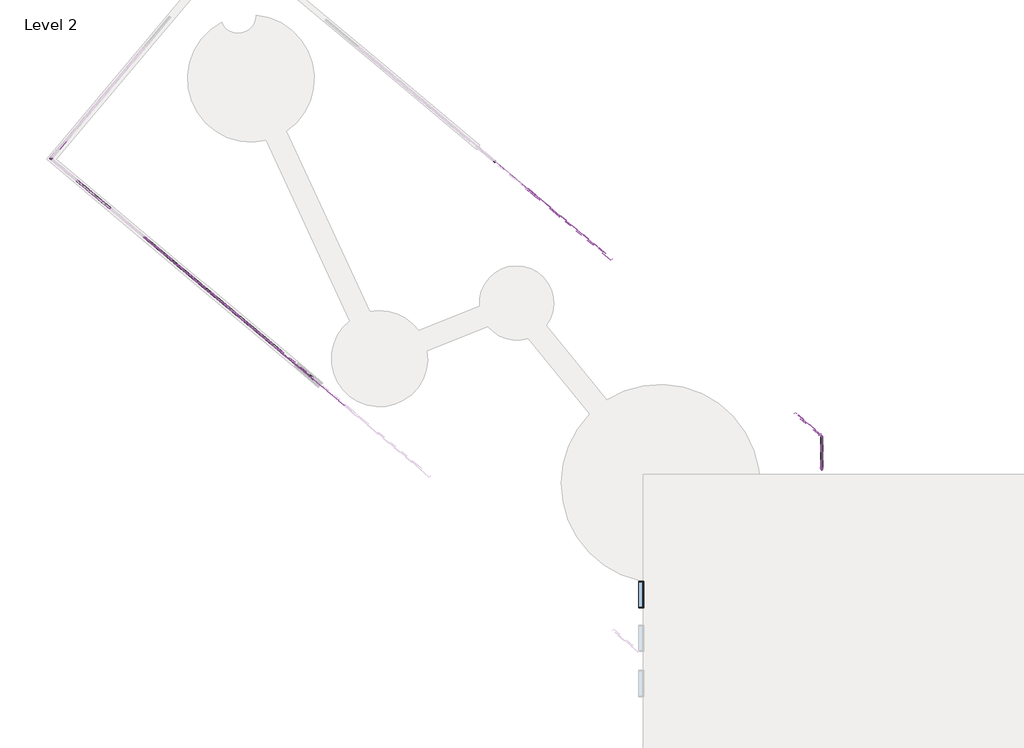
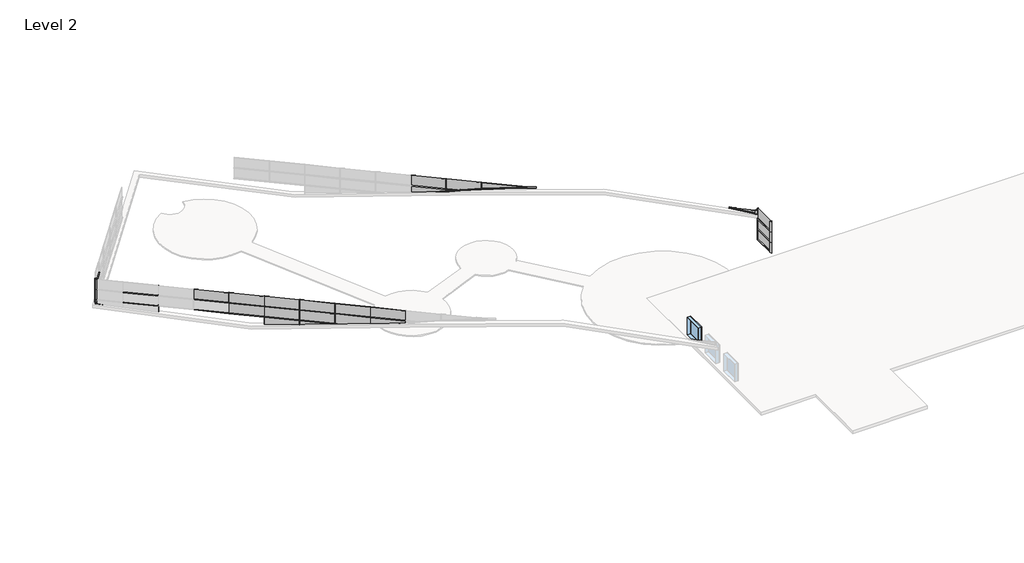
# One storey, part 2 of 4: 61 members, 24 plates, 1 window.
"""IFC4 building model written with IfcOpenShell, lengths in millimetres."""

from ifc_helpers import new_model, si_unit, origin, place, context, project, spatial, transform, mapped, element, save
from components import member_e6b937b8, member_1b704979, member_068a0dfa, member_232b107b, member_5cb85f76, member_ac0e112d, member_633fb476, member_a7599d5d, member_fc960fec, member_60456532, member_eaba9652, member_34764c31, member_99cfcb15, member_47efc922, member_e08b85bd, member_cf3f750f, member_a7c730c3, member_fe170bf2, member_786ddc1b, member_6f14002f, member_fb21f5a2, member_c036f4fd, member_a8023948, member_02a9b408, member_da5e5371, member_6eb202bc, member_954245ad, member_117cba67, member_db8f3720, member_387caf8a, member_c5bb3335, member_59f4f75c, system_panel_glazed_a2c5a472, system_panel_glazed_07eba4bf, system_panel_glazed_db298635, system_panel_glazed_139d58c7, system_panel_glazed_4946ea4e, system_panel_glazed_e6b97be5, system_panel_glazed_a8738b8d, system_panel_glazed_68af7b0f, system_panel_glazed_a85f667b, system_panel_glazed_acf1b168, system_panel_glazed_5c028d10, system_panel_glazed_bdf12241, system_panel_glazed_57983fdc, fixed_6_x_6_52427b03

model = new_model("IFC4")

# Units and contexts
model_context = context("Model", 3, world=origin())
ifc_project = project(units=[si_unit("LENGTHUNIT", "METRE", prefix="MILLI")], contexts=[model_context])

# Site, building, storey
site = spatial("IfcSite", under=ifc_project)
building = spatial("IfcBuilding", under=site)
storey = spatial("IfcBuildingStorey", under=building, Name="Level 2", Elevation=3048.0)

# Members
placement = place(None, origin())
member_shape = member_e6b937b8(model_context)
element("IfcMember", 1, ObjectType="Rectangular Mullion : 1.5\" x 2.5\" rectangular", at=placement, inside=storey, context=model_context, shape_type="MappedRepresentation", body=[
    mapped(member_shape, transform((-25926.9227367, 30344.5515415, 6133.5444177), x_axis=(0.76604444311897, -0.6427876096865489, 0.0), y_axis=(0.6427876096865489, 0.76604444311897, 0.0), z_axis=(0.0, 0.0, 1.0))),
])
element("IfcMember", 2, ObjectType="Rectangular Mullion : 1.5\" x 2.5\" rectangular", at=placement, inside=storey, context=model_context, shape_type="MappedRepresentation", body=[
    mapped(member_shape, transform((-43285.7186452, 19140.836603, 5066.7444177), x_axis=(-0.76604444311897, 0.6427876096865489, 0.0), y_axis=(-0.6427876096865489, -0.76604444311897, 0.0), z_axis=(0.0, 0.0, 1.0))),
])
element("IfcMember", 3, ObjectType="Rectangular Mullion : 1.5\" x 2.5\" rectangular", at=placement, inside=storey, context=model_context, shape_type="MappedRepresentation", body=[
    mapped(member_shape, transform((-40950.8151826, 17181.6199687, 6133.5444177), x_axis=(-0.76604444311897, 0.6427876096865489, 0.0), y_axis=(-0.6427876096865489, -0.76604444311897, 0.0), z_axis=(0.0, 0.0, 1.0))),
])
element("IfcMember", 4, ObjectType="Rectangular Mullion : 1.5\" x 2.5\" rectangular", at=placement, inside=storey, context=model_context, shape_type="MappedRepresentation", body=[
    mapped(member_shape, transform((-43285.7186452, 19140.836603, 6133.5444177), x_axis=(-0.76604444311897, 0.6427876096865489, 0.0), y_axis=(-0.6427876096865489, -0.76604444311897, 0.0), z_axis=(0.0, 0.0, 1.0))),
])
element("IfcMember", 5, ObjectType="Rectangular Mullion : 1.5\" x 2.5\" rectangular", at=placement, inside=storey, context=model_context, shape_type="MappedRepresentation", body=[
    mapped(member_shape, transform((-45620.6221079, 21100.0532373, 5066.7444177), x_axis=(-0.76604444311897, 0.6427876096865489, 0.0), y_axis=(-0.6427876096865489, -0.76604444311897, 0.0), z_axis=(0.0, 0.0, 1.0))),
])
element("IfcMember", 6, ObjectType="Rectangular Mullion : 1.5\" x 2.5\" rectangular", at=placement, inside=storey, context=model_context, shape_type="MappedRepresentation", body=[
    mapped(member_shape, transform((-47955.5255705, 23059.2698716, 5066.7444177), x_axis=(-0.76604444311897, 0.6427876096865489, 0.0), y_axis=(-0.6427876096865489, -0.76604444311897, 0.0), z_axis=(0.0, 0.0, 1.0))),
])
element("IfcMember", 7, ObjectType="Rectangular Mullion : 1.5\" x 2.5\" rectangular", at=placement, inside=storey, context=model_context, shape_type="MappedRepresentation", body=[
    mapped(member_shape, transform((-50290.4290331, 25018.486506, 5066.7444177), x_axis=(-0.76604444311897, 0.6427876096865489, 0.0), y_axis=(-0.6427876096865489, -0.76604444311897, 0.0), z_axis=(0.0, 0.0, 1.0))),
])
element("IfcMember", 8, ObjectType="Rectangular Mullion : 1.5\" x 2.5\" rectangular", at=placement, inside=storey, context=model_context, shape_type="MappedRepresentation", body=[
    mapped(member_shape, transform((-54960.2359584, 28936.9197746, 5066.7444177), x_axis=(-0.76604444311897, 0.6427876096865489, 0.0), y_axis=(-0.6427876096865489, -0.76604444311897, 0.0), z_axis=(0.0, 0.0, 1.0))),
])
element("IfcMember", 9, ObjectType="Rectangular Mullion : 1.5\" x 2.5\" rectangular", at=placement, inside=storey, context=model_context, shape_type="MappedRepresentation", body=[
    mapped(member_shape, transform((-45620.6221079, 21100.0532373, 6133.5444177), x_axis=(-0.76604444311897, 0.6427876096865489, 0.0), y_axis=(-0.6427876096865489, -0.76604444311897, 0.0), z_axis=(0.0, 0.0, 1.0))),
])
element("IfcMember", 10, ObjectType="Rectangular Mullion : 1.5\" x 2.5\" rectangular", at=placement, inside=storey, context=model_context, shape_type="MappedRepresentation", body=[
    mapped(member_shape, transform((-47955.5255705, 23059.2698716, 6133.5444177), x_axis=(-0.76604444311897, 0.6427876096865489, 0.0), y_axis=(-0.6427876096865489, -0.76604444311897, 0.0), z_axis=(0.0, 0.0, 1.0))),
])
element("IfcMember", 11, ObjectType="Rectangular Mullion : 1.5\" x 2.5\" rectangular", at=placement, inside=storey, context=model_context, shape_type="MappedRepresentation", body=[
    mapped(member_shape, transform((-50290.4290331, 25018.486506, 6133.5444177), x_axis=(-0.76604444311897, 0.6427876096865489, 0.0), y_axis=(-0.6427876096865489, -0.76604444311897, 0.0), z_axis=(0.0, 0.0, 1.0))),
])
element("IfcMember", 12, ObjectType="Rectangular Mullion : 1.5\" x 2.5\" rectangular", at=placement, inside=storey, context=model_context, shape_type="MappedRepresentation", body=[
    mapped(member_shape, transform((-54960.2359584, 28936.9197746, 6133.5444177), x_axis=(-0.76604444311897, 0.6427876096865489, 0.0), y_axis=(-0.6427876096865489, -0.76604444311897, 0.0), z_axis=(0.0, 0.0, 1.0))),
])
member_2_shape = member_1b704979(model_context)
element("IfcMember", 13, ObjectType="Rectangular Mullion : 1.5\" x 2.5\" rectangular", at=placement, inside=storey, context=model_context, shape_type="MappedRepresentation", body=[
    mapped(member_2_shape, transform((-5348.7113943, 13077.3819938, 3200.4), x_axis=(0.0, 1.0, 0.0), y_axis=(1.0, 0.0, 0.0), z_axis=(0.0, 0.0, -1.0))),
])
element("IfcMember", 14, ObjectType="Rectangular Mullion : 1.5\" x 2.5\" rectangular", at=placement, inside=storey, context=model_context, shape_type="MappedRepresentation", body=[
    mapped(member_2_shape, transform((-5348.7113943, 13077.3819938, 4267.2), x_axis=(0.0, 1.0, 0.0), y_axis=(1.0, 0.0, 0.0), z_axis=(0.0, 0.0, -1.0))),
])
element("IfcMember", 15, ObjectType="Rectangular Mullion : 1.5\" x 2.5\" rectangular", at=placement, inside=storey, context=model_context, shape_type="MappedRepresentation", body=[
    mapped(member_2_shape, transform((-5348.7113943, 13077.3819938, 5334.0), x_axis=(0.0, 1.0, 0.0), y_axis=(1.0, 0.0, 0.0), z_axis=(0.0, 0.0, -1.0))),
])
member_3_shape = member_068a0dfa(model_context)
element("IfcMember", 16, ObjectType="Rectangular Mullion : 1.5\" x 2.5\" rectangular", at=placement, inside=storey, context=model_context, shape_type="MappedRepresentation", body=[
    mapped(member_3_shape, transform((-25926.9227367, 30344.5515415, 5066.7444177), x_axis=(0.76604444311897, -0.6427876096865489, 0.0), y_axis=(0.6427876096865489, 0.76604444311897, 0.0), z_axis=(0.0, 0.0, 1.0))),
])
member_4_shape = member_232b107b(model_context)
element("IfcMember", 17, ObjectType="Rectangular Mullion : 1.5\" x 2.5\" rectangular", at=placement, inside=storey, context=model_context, shape_type="MappedRepresentation", body=[
    mapped(member_4_shape, transform((-23592.0192741, 28385.3349072, 6133.5444177), x_axis=(0.76604444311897, -0.6427876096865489, 0.0), y_axis=(0.6427876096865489, 0.76604444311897, 0.0), z_axis=(0.0, 0.0, 1.0))),
])
member_5_shape = member_5cb85f76(model_context)
element("IfcMember", 18, ObjectType="Rectangular Mullion : 1.5\" x 2.5\" rectangular", at=placement, inside=storey, context=model_context, shape_type="MappedRepresentation", body=[
    mapped(member_5_shape, transform((-21257.1158115, 26426.1182729, 6133.5444177), x_axis=(0.76604444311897, -0.6427876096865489, 0.0), y_axis=(0.6427876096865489, 0.76604444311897, 0.0), z_axis=(0.0, 0.0, 1.0))),
])
member_6_shape = member_ac0e112d(model_context)
element("IfcMember", 19, ObjectType="Rectangular Mullion : 1.5\" x 2.5\" rectangular", at=placement, inside=storey, context=model_context, shape_type="MappedRepresentation", body=[
    mapped(member_6_shape, transform((-43285.7186452, 19140.836603, 3999.9444177), x_axis=(-0.76604444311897, 0.6427876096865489, 0.0), y_axis=(-0.6427876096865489, -0.76604444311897, 0.0), z_axis=(0.0, 0.0, 1.0))),
])
member_7_shape = member_633fb476(model_context)
element("IfcMember", 20, ObjectType="Rectangular Mullion : 1.5\" x 2.5\" rectangular", at=placement, inside=storey, context=model_context, shape_type="MappedRepresentation", body=[
    mapped(member_7_shape, transform((-40950.8151826, 17181.6199687, 5066.7444177), x_axis=(-0.76604444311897, 0.6427876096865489, 0.0), y_axis=(-0.6427876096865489, -0.76604444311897, 0.0), z_axis=(0.0, 0.0, 1.0))),
])
member_8_shape = member_a7599d5d(model_context)
element("IfcMember", 21, ObjectType="Rectangular Mullion : 1.5\" x 2.5\" rectangular", at=placement, inside=storey, context=model_context, shape_type="MappedRepresentation", body=[
    mapped(member_8_shape, transform((-45620.6221079, 21100.0532373, 3999.9444177), x_axis=(-0.76604444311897, 0.6427876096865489, 0.0), y_axis=(-0.6427876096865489, -0.76604444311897, 0.0), z_axis=(0.0, 0.0, 1.0))),
])
member_9_shape = member_fc960fec(model_context)
element("IfcMember", 22, ObjectType="Rectangular Mullion : 1.5\" x 2.5\" rectangular", at=placement, inside=storey, context=model_context, shape_type="MappedRepresentation", body=[
    mapped(member_9_shape, transform((-47955.5255705, 23059.2698716, 3999.9444177), x_axis=(-0.76604444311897, 0.6427876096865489, 0.0), y_axis=(-0.6427876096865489, -0.76604444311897, 0.0), z_axis=(0.0, 0.0, 1.0))),
])
member_10_shape = member_60456532(model_context)
element("IfcMember", 23, ObjectType="Rectangular Mullion : 1.5\" x 2.5\" rectangular", at=placement, inside=storey, context=model_context, shape_type="MappedRepresentation", body=[
    mapped(member_10_shape, transform((-54960.2359584, 28936.9197746, 3999.9444177), x_axis=(-0.76604444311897, 0.6427876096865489, 0.0), y_axis=(-0.6427876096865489, -0.76604444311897, 0.0), z_axis=(0.0, 0.0, 1.0))),
])
member_11_shape = member_eaba9652(model_context)
element("IfcMember", 24, ObjectType="Rectangular Mullion : 2.5\" x 5\" rectangular", at=placement, inside=storey, context=model_context, shape_type="MappedRepresentation", body=[
    mapped(member_11_shape, transform((-43285.7186452, 19140.836603, 4031.6944177), x_axis=(0.0, 0.0, 1.0), y_axis=(-0.6427876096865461, -0.7660444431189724, 0.0), z_axis=(0.7660444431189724, -0.6427876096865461, 0.0))),
])
element("IfcMember", 25, ObjectType="Rectangular Mullion : 2.5\" x 5\" rectangular", at=placement, inside=storey, context=model_context, shape_type="MappedRepresentation", body=[
    mapped(member_11_shape, transform((-40950.8151826, 17181.6199687, 5098.4944177), x_axis=(0.0, 0.0, 1.0), y_axis=(-0.6427876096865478, -0.766044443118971, 0.0), z_axis=(0.766044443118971, -0.6427876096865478, 0.0))),
])
element("IfcMember", 26, ObjectType="Rectangular Mullion : 2.5\" x 5\" rectangular", at=placement, inside=storey, context=model_context, shape_type="MappedRepresentation", body=[
    mapped(member_11_shape, transform((-43285.7186452, 19140.836603, 5098.4944177), x_axis=(0.0, 0.0, 1.0), y_axis=(-0.642787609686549, -0.76604444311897, 0.0), z_axis=(0.7660444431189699, -0.6427876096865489, 0.0))),
])
element("IfcMember", 27, ObjectType="Rectangular Mullion : 2.5\" x 5\" rectangular", at=placement, inside=storey, context=model_context, shape_type="MappedRepresentation", body=[
    mapped(member_11_shape, transform((-45620.6221079, 21100.0532373, 4031.6944177), x_axis=(0.0, 0.0, 1.0), y_axis=(-0.6427876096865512, -0.7660444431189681, 0.0), z_axis=(0.766044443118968, -0.6427876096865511, 0.0))),
])
element("IfcMember", 28, ObjectType="Rectangular Mullion : 2.5\" x 5\" rectangular", at=placement, inside=storey, context=model_context, shape_type="MappedRepresentation", body=[
    mapped(member_11_shape, transform((-47955.5255705, 23059.2698716, 4031.6944177), x_axis=(0.0, 0.0, 1.0), y_axis=(-0.642787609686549, -0.76604444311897, 0.0), z_axis=(0.7660444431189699, -0.6427876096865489, 0.0))),
])
element("IfcMember", 29, ObjectType="Rectangular Mullion : 2.5\" x 5\" rectangular", at=placement, inside=storey, context=model_context, shape_type="MappedRepresentation", body=[
    mapped(member_11_shape, transform((-50290.4290331, 25018.486506, 4031.6944177), x_axis=(0.0, 0.0, 1.0), y_axis=(-0.6427876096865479, -0.7660444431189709, 0.0), z_axis=(0.7660444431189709, -0.6427876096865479, 0.0))),
])
element("IfcMember", 30, ObjectType="Rectangular Mullion : 2.5\" x 5\" rectangular", at=placement, inside=storey, context=model_context, shape_type="MappedRepresentation", body=[
    mapped(member_11_shape, transform((-54960.2359584, 28936.9197746, 4031.6944177), x_axis=(0.0, 0.0, 1.0), y_axis=(-0.6427876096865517, -0.7660444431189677, 0.0), z_axis=(0.7660444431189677, -0.6427876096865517, 0.0))),
])
element("IfcMember", 31, ObjectType="Rectangular Mullion : 2.5\" x 5\" rectangular", at=placement, inside=storey, context=model_context, shape_type="MappedRepresentation", body=[
    mapped(member_11_shape, transform((-45620.6221079, 21100.0532373, 5098.4944177), x_axis=(0.0, 0.0, 1.0), y_axis=(-0.6427876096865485, -0.7660444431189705, 0.0), z_axis=(0.7660444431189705, -0.6427876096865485, 0.0))),
])
element("IfcMember", 32, ObjectType="Rectangular Mullion : 2.5\" x 5\" rectangular", at=placement, inside=storey, context=model_context, shape_type="MappedRepresentation", body=[
    mapped(member_11_shape, transform((-47955.5255705, 23059.2698716, 5098.4944177), x_axis=(0.0, 0.0, 1.0), y_axis=(-0.642787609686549, -0.76604444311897, 0.0), z_axis=(0.7660444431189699, -0.6427876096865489, 0.0))),
])
element("IfcMember", 33, ObjectType="Rectangular Mullion : 2.5\" x 5\" rectangular", at=placement, inside=storey, context=model_context, shape_type="MappedRepresentation", body=[
    mapped(member_11_shape, transform((-50290.4290331, 25018.486506, 5098.4944177), x_axis=(0.0, 0.0, 1.0), y_axis=(-0.6427876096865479, -0.7660444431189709, 0.0), z_axis=(0.7660444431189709, -0.6427876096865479, 0.0))),
])
element("IfcMember", 34, ObjectType="Rectangular Mullion : 2.5\" x 5\" rectangular", at=placement, inside=storey, context=model_context, shape_type="MappedRepresentation", body=[
    mapped(member_11_shape, transform((-54960.2359584, 28936.9197746, 5098.4944177), x_axis=(0.0, 0.0, 1.0), y_axis=(-0.6427876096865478, -0.766044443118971, 0.0), z_axis=(0.766044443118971, -0.6427876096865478, 0.0))),
])
member_12_shape = member_34764c31(model_context)
element("IfcMember", 35, ObjectType="Rectangular Mullion : 2.5\" x 5\" rectangular", at=placement, inside=storey, context=model_context, shape_type="MappedRepresentation", body=[
    mapped(member_12_shape, transform((-5348.7113943, 13039.2819938, 3200.4), x_axis=(0.0, 0.0, 1.0), y_axis=(1.0, 0.0, 0.0), z_axis=(0.0, 1.0, 0.0))),
])
element("IfcMember", 36, ObjectType="Rectangular Mullion : 2.5\" x 5\" rectangular", at=placement, inside=storey, context=model_context, shape_type="MappedRepresentation", body=[
    mapped(member_12_shape, transform((-5348.7113943, 13039.2819938, 4267.2), x_axis=(0.0, 0.0, 1.0), y_axis=(1.0, 0.0, 0.0), z_axis=(0.0, 1.0, 0.0))),
])
element("IfcMember", 37, ObjectType="Rectangular Mullion : 2.5\" x 5\" rectangular", at=placement, inside=storey, context=model_context, shape_type="MappedRepresentation", body=[
    mapped(member_12_shape, transform((-5348.7113943, 13039.2819938, 5334.0), x_axis=(0.0, 0.0, 1.0), y_axis=(1.0, 0.0, 0.0), z_axis=(0.0, 1.0, 0.0))),
])
member_13_shape = member_99cfcb15(model_context)
element("IfcMember", 38, ObjectType="Rectangular Mullion : 2.5\" x 5\" rectangular", at=placement, inside=storey, context=model_context, shape_type="MappedRepresentation", body=[
    mapped(member_13_shape, transform((-25926.9227367, 30344.5515415, 5098.4944177), x_axis=(0.0, 0.0, 1.0), y_axis=(0.6427876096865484, 0.7660444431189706, 0.0), z_axis=(-0.7660444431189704, 0.6427876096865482, 0.0))),
])
member_14_shape = member_47efc922(model_context)
element("IfcMember", 39, ObjectType="Rectangular Mullion : 2.5\" x 5\" rectangular", at=placement, inside=storey, context=model_context, shape_type="MappedRepresentation", body=[
    mapped(member_14_shape, transform((-41741.8579891, 17845.3836958, 4031.6944177), x_axis=(0.0, 0.0, 1.0), y_axis=(-0.6427876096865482, -0.7660444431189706, 0.0), z_axis=(0.7660444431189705, -0.6427876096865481, 0.0))),
])
member_15_shape = member_e08b85bd(model_context)
element("IfcMember", 40, ObjectType="Rectangular Mullion : 2.5\" x 5\" rectangular", at=placement, inside=storey, context=model_context, shape_type="MappedRepresentation", body=[
    mapped(member_15_shape, transform((-5440.5496741, 13154.4434605, 5772.8755681), x_axis=(-0.10635698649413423, 0.08924410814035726, -0.9903149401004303), y_axis=(0.6427876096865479, 0.766044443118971, 0.0), z_axis=(0.7586252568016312, -0.6365621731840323, -0.138839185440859))),
])
member_16_shape = member_cf3f750f(model_context)
element("IfcMember", 41, ObjectType="Rectangular Mullion : 2.5\" x 5\" rectangular", at=placement, inside=storey, context=model_context, shape_type="MappedRepresentation", body=[
    mapped(member_16_shape, transform((-25704.9230879, 30158.271718, 4891.5614291), x_axis=(0.1678827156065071, -0.14087032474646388, -0.975689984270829), y_axis=(0.6427876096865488, 0.7660444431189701, 0.0), z_axis=(0.7474218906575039, -0.6271614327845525, 0.21915532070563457))),
])
member_17_shape = member_a7c730c3(model_context)
element("IfcMember", 42, ObjectType="Rectangular Mullion : 2.5\" x 5\" rectangular", at=placement, inside=storey, context=model_context, shape_type="MappedRepresentation", body=[
    mapped(member_17_shape, transform((-25926.9227367, 30344.5515415, 4826.4677988), x_axis=(0.1515031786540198, -0.1271262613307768, -0.9802477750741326), y_axis=(0.6427876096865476, 0.7660444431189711, 0.0), z_axis=(0.7509133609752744, -0.6300911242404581, 0.19777335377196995))),
])
member_18_shape = member_fe170bf2(model_context)
element("IfcMember", 43, ObjectType="Rectangular Mullion : 2.5\" x 5\" rectangular", at=placement, inside=storey, context=model_context, shape_type="MappedRepresentation", body=[
    mapped(member_18_shape, transform((-23592.0192741, 28385.3349072, 5458.7436773), x_axis=(0.14913561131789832, -0.12513963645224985, -0.9808662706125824), y_axis=(0.6427876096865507, 0.7660444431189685, 0.0), z_axis=(0.7513871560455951, -0.6304886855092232, 0.19468271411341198))),
])
member_19_shape = member_786ddc1b(model_context)
element("IfcMember", 44, ObjectType="Rectangular Mullion : 2.5\" x 5\" rectangular", at=placement, inside=storey, context=model_context, shape_type="MappedRepresentation", body=[
    mapped(member_19_shape, transform((-21257.1158115, 26426.1182729, 5953.0603257), x_axis=(0.12263283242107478, -0.10290116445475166, -0.9871031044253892), y_axis=(0.6427876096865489, 0.76604444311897, 0.0), z_axis=(0.7561648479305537, -0.6344976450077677, 0.16008579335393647))),
])
member_20_shape = member_6f14002f(model_context)
element("IfcMember", 45, ObjectType="Rectangular Mullion : 2.5\" x 5\" rectangular", at=placement, inside=storey, context=model_context, shape_type="MappedRepresentation", body=[
    mapped(member_20_shape, transform((-24982.4183545, 29552.0182627, 5098.4944177), x_axis=(0.16416772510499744, -0.13775307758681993, -0.9767666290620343), y_axis=(0.6427876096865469, 0.7660444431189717, 0.0), z_axis=(0.7482466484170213, -0.6278534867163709, 0.2143057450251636))),
])
member_21_shape = member_fb21f5a2(model_context)
element("IfcMember", 46, ObjectType="Rectangular Mullion : 2.5\" x 5\" rectangular", at=placement, inside=storey, context=model_context, shape_type="MappedRepresentation", body=[
    mapped(member_21_shape, transform((-19982.3391275, 25356.4536275, 6165.2944177), x_axis=(0.09691374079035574, -0.08132028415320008, -0.9919650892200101), y_axis=(0.6427876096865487, 0.7660444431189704, 0.0), z_axis=(0.7598893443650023, -0.6376228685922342, 0.12651190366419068))),
])
member_22_shape = member_c036f4fd(model_context)
element("IfcMember", 47, ObjectType="Rectangular Mullion : 2.5\" x 5\" rectangular", at=placement, inside=storey, context=model_context, shape_type="MappedRepresentation", body=[
    mapped(member_22_shape, transform((-59102.2847827, 32412.5114154, 3585.4474171), x_axis=(-0.08490531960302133, 0.07124402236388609, -0.9938387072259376), y_axis=(-0.642787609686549, -0.76604444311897, 0.0), z_axis=(-0.7613246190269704, 0.6388272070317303, 0.11083602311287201))),
])
member_23_shape = member_a8023948(model_context)
element("IfcMember", 48, ObjectType="Rectangular Mullion : 2.5\" x 5\" rectangular", at=placement, inside=storey, context=model_context, shape_type="MappedRepresentation", body=[
    mapped(member_23_shape, transform((-40950.8151826, 17181.6199687, 4211.5077942), x_axis=(0.1515031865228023, -0.12712626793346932, -0.9802477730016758), y_axis=(-0.6427876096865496, -0.7660444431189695, 0.0), z_axis=(-0.7509133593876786, 0.6300911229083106, -0.197773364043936))),
])
member_24_shape = member_02a9b408(model_context)
element("IfcMember", 49, ObjectType="Rectangular Mullion : 2.5\" x 5\" rectangular", at=placement, inside=storey, context=model_context, shape_type="MappedRepresentation", body=[
    mapped(member_24_shape, transform((-43285.7186452, 19140.836603, 3721.7624485), x_axis=(0.11643687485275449, -0.09770213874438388, -0.9883808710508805), y_axis=(-0.6427876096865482, -0.7660444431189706, 0.0), z_axis=(-0.7571436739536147, 0.6353189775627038, -0.15199754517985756))),
])
member_25_shape = member_da5e5371(model_context)
element("IfcMember", 50, ObjectType="Rectangular Mullion : 2.5\" x 5\" rectangular", at=placement, inside=storey, context=model_context, shape_type="MappedRepresentation", body=[
    mapped(member_25_shape, transform((-45620.6221079, 21100.0532373, 3354.8585305), x_axis=(0.09155191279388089, -0.0768211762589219, -0.9928326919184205), y_axis=(-0.6427876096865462, -0.7660444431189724, 0.0), z_axis=(-0.7605539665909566, 0.6381805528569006, -0.11951253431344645))),
])
member_26_shape = member_6eb202bc(model_context)
element("IfcMember", 51, ObjectType="Rectangular Mullion : 2.5\" x 5\" rectangular", at=placement, inside=storey, context=model_context, shape_type="MappedRepresentation", body=[
    mapped(member_26_shape, transform((-47955.5255705, 23059.2698716, 3109.0572901), x_axis=(0.06157656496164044, -0.05166887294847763, -0.9967640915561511), y_axis=(-0.6427876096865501, -0.7660444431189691, 0.0), z_axis=(-0.7635655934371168, 0.6407076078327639, -0.08038249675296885))),
])
member_27_shape = member_954245ad(model_context)
element("IfcMember", 52, ObjectType="Rectangular Mullion : 2.5\" x 5\" rectangular", at=placement, inside=storey, context=model_context, shape_type="MappedRepresentation", body=[
    mapped(member_27_shape, transform((-41741.8579891, 17845.3836958, 4031.6944177), x_axis=(0.13141457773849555, -0.1102699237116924, -0.9851754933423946), y_axis=(-0.6427876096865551, -0.7660444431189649, 0.0), z_axis=(-0.7546882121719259, 0.6332586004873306, -0.17154954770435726))),
])
member_28_shape = member_117cba67(model_context)
element("IfcMember", 53, ObjectType="Rectangular Mullion : 2.5\" x 5\" rectangular", at=placement, inside=storey, context=model_context, shape_type="MappedRepresentation", body=[
    mapped(member_28_shape, transform((-59041.0592628, 32485.4771486, 4652.2474171), x_axis=(0.0, 0.0, 1.0), y_axis=(-0.76604444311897, 0.6427876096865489, 0.0), z_axis=(-0.6427876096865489, -0.76604444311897, 0.0))),
])
element("IfcMember", 54, ObjectType="Rectangular Mullion : 2.5\" x 5\" rectangular", at=placement, inside=storey, context=model_context, shape_type="MappedRepresentation", body=[
    mapped(member_28_shape, transform((-59041.0592628, 32485.4771486, 5719.0474171), x_axis=(0.0, 0.0, 1.0), y_axis=(-0.76604444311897, 0.6427876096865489, 0.0), z_axis=(-0.6427876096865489, -0.76604444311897, 0.0))),
])
member_29_shape = member_db8f3720(model_context)
element("IfcMember", 55, ObjectType="V Corner Mullion : 5\" V Corner", at=placement, inside=storey, context=model_context, shape_type="MappedRepresentation", body=[
    mapped(member_29_shape, transform((-5348.7113943, 10769.3870607, 4267.2), x_axis=(0.0, -1.0, 0.0), y_axis=(1.0, 0.0, 0.0), z_axis=(0.0, 0.0, 1.0))),
])
element("IfcMember", 56, ObjectType="V Corner Mullion : 5\" V Corner", at=placement, inside=storey, context=model_context, shape_type="MappedRepresentation", body=[
    mapped(member_29_shape, transform((-5348.7113943, 10769.3870607, 5334.0), x_axis=(0.0, -1.0, 0.0), y_axis=(1.0, 0.0, 0.0), z_axis=(0.0, 0.0, 1.0))),
])
element("IfcMember", 57, ObjectType="V Corner Mullion : 5\" V Corner", at=placement, inside=storey, context=model_context, shape_type="MappedRepresentation", body=[
    mapped(member_29_shape, transform((-5348.7113943, 10769.3870607, 6400.8), x_axis=(0.0, -1.0, 0.0), y_axis=(1.0, 0.0, 0.0), z_axis=(0.0, 0.0, 1.0))),
])
member_30_shape = member_387caf8a(model_context)
element("IfcMember", 58, ObjectType="V Corner Mullion : 5\" V Corner", at=placement, inside=storey, context=model_context, shape_type="MappedRepresentation", body=[
    mapped(member_30_shape, transform((-59102.2847827, 32412.5114154, 5098.4944177), x_axis=(-0.76604444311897, 0.6427876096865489, 0.0), y_axis=(-0.6427876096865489, -0.76604444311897, 0.0), z_axis=(0.0, 0.0, 1.0))),
])
element("IfcMember", 59, ObjectType="V Corner Mullion : 5\" V Corner", at=placement, inside=storey, context=model_context, shape_type="MappedRepresentation", body=[
    mapped(member_30_shape, transform((-59102.2847827, 32412.5114154, 6165.2944177), x_axis=(-0.76604444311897, 0.6427876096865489, 0.0), y_axis=(-0.6427876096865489, -0.76604444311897, 0.0), z_axis=(0.0, 0.0, 1.0))),
])
member_31_shape = member_c5bb3335(model_context)
element("IfcMember", 60, ObjectType="V Corner Mullion : 5\" V Corner", at=placement, inside=storey, context=model_context, shape_type="MappedRepresentation", body=[
    mapped(member_31_shape, transform((-5440.5496741, 13154.4434605, 6165.2944177), x_axis=(0.76604444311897, -0.6427876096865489, 0.0), y_axis=(0.6427876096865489, 0.76604444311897, 0.0), z_axis=(0.0, 0.0, 1.0))),
])
member_32_shape = member_59f4f75c(model_context)
element("IfcMember", 61, ObjectType="V Corner Mullion : 5\" V Corner", at=placement, inside=storey, context=model_context, shape_type="MappedRepresentation", body=[
    mapped(member_32_shape, transform((-59102.2847827, 32412.5114154, 4031.6944177), x_axis=(-0.76604444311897, 0.6427876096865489, 0.0), y_axis=(-0.6427876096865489, -0.76604444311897, 0.0), z_axis=(0.0, 0.0, 1.0))),
])

# Plates
system_panel_glazed_shape = system_panel_glazed_a2c5a472(model_context)
element("IfcPlate", 62, ObjectType="System Panel : Glazed", at=placement, inside=storey, context=model_context, shape_type="MappedRepresentation", body=[
    mapped(system_panel_glazed_shape, transform((-44453.1703766, 20120.4449202, 4063.4444177), x_axis=(-0.76604444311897, 0.6427876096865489, 0.0), y_axis=(-0.6427876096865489, -0.76604444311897, 0.0), z_axis=(0.0, 0.0, 1.0))),
])
element("IfcPlate", 63, ObjectType="System Panel : Glazed", at=placement, inside=storey, context=model_context, shape_type="MappedRepresentation", body=[
    mapped(system_panel_glazed_shape, transform((-39783.3634513, 16202.0116515, 5130.2444177), x_axis=(-0.76604444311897, 0.6427876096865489, 0.0), y_axis=(-0.6427876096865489, -0.76604444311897, 0.0), z_axis=(0.0, 0.0, 1.0))),
])
element("IfcPlate", 64, ObjectType="System Panel : Glazed", at=placement, inside=storey, context=model_context, shape_type="MappedRepresentation", body=[
    mapped(system_panel_glazed_shape, transform((-42118.2669139, 18161.2282858, 5130.2444177), x_axis=(-0.76604444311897, 0.6427876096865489, 0.0), y_axis=(-0.6427876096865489, -0.76604444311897, 0.0), z_axis=(0.0, 0.0, 1.0))),
])
element("IfcPlate", 65, ObjectType="System Panel : Glazed", at=placement, inside=storey, context=model_context, shape_type="MappedRepresentation", body=[
    mapped(system_panel_glazed_shape, transform((-44453.1703766, 20120.4449202, 5130.2444177), x_axis=(-0.76604444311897, 0.6427876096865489, 0.0), y_axis=(-0.6427876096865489, -0.76604444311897, 0.0), z_axis=(0.0, 0.0, 1.0))),
])
element("IfcPlate", 66, ObjectType="System Panel : Glazed", at=placement, inside=storey, context=model_context, shape_type="MappedRepresentation", body=[
    mapped(system_panel_glazed_shape, transform((-27094.3744681, 31324.1598587, 5130.2444177), x_axis=(0.76604444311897, -0.6427876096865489, 0.0), y_axis=(0.6427876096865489, 0.76604444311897, 0.0), z_axis=(0.0, 0.0, 1.0))),
])
element("IfcPlate", 67, ObjectType="System Panel : Glazed", at=placement, inside=storey, context=model_context, shape_type="MappedRepresentation", body=[
    mapped(system_panel_glazed_shape, transform((-46788.0738392, 22079.6615545, 4063.4444177), x_axis=(-0.76604444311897, 0.6427876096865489, 0.0), y_axis=(-0.6427876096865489, -0.76604444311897, 0.0), z_axis=(0.0, 0.0, 1.0))),
])
element("IfcPlate", 68, ObjectType="System Panel : Glazed", at=placement, inside=storey, context=model_context, shape_type="MappedRepresentation", body=[
    mapped(system_panel_glazed_shape, transform((-46788.0738392, 22079.6615545, 5130.2444177), x_axis=(-0.76604444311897, 0.6427876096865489, 0.0), y_axis=(-0.6427876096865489, -0.76604444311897, 0.0), z_axis=(0.0, 0.0, 1.0))),
])
element("IfcPlate", 69, ObjectType="System Panel : Glazed", at=placement, inside=storey, context=model_context, shape_type="MappedRepresentation", body=[
    mapped(system_panel_glazed_shape, transform((-49122.9773018, 24038.8781888, 4063.4444177), x_axis=(-0.76604444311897, 0.6427876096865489, 0.0), y_axis=(-0.6427876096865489, -0.76604444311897, 0.0), z_axis=(0.0, 0.0, 1.0))),
])
element("IfcPlate", 70, ObjectType="System Panel : Glazed", at=placement, inside=storey, context=model_context, shape_type="MappedRepresentation", body=[
    mapped(system_panel_glazed_shape, transform((-49122.9773018, 24038.8781888, 5130.2444177), x_axis=(-0.76604444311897, 0.6427876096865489, 0.0), y_axis=(-0.6427876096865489, -0.76604444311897, 0.0), z_axis=(0.0, 0.0, 1.0))),
])
element("IfcPlate", 71, ObjectType="System Panel : Glazed", at=placement, inside=storey, context=model_context, shape_type="MappedRepresentation", body=[
    mapped(system_panel_glazed_shape, transform((-51457.8807644, 25998.0948231, 5130.2444177), x_axis=(-0.76604444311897, 0.6427876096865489, 0.0), y_axis=(-0.6427876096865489, -0.76604444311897, 0.0), z_axis=(0.0, 0.0, 1.0))),
])
system_panel_glazed_2_shape = system_panel_glazed_07eba4bf(model_context)
element("IfcPlate", 72, ObjectType="System Panel : Glazed", at=placement, inside=storey, context=model_context, shape_type="MappedRepresentation", body=[
    mapped(system_panel_glazed_2_shape, transform((-5348.7113943, 11940.5959678, 3232.15), x_axis=(0.0, -1.0, 0.0), y_axis=(1.0, 0.0, 0.0), z_axis=(0.0, 0.0, 1.0))),
])
element("IfcPlate", 73, ObjectType="System Panel : Glazed", at=placement, inside=storey, context=model_context, shape_type="MappedRepresentation", body=[
    mapped(system_panel_glazed_2_shape, transform((-5348.7113943, 11940.5959678, 4298.95), x_axis=(0.0, -1.0, 0.0), y_axis=(1.0, 0.0, 0.0), z_axis=(0.0, 0.0, 1.0))),
])
element("IfcPlate", 74, ObjectType="System Panel : Glazed", at=placement, inside=storey, context=model_context, shape_type="MappedRepresentation", body=[
    mapped(system_panel_glazed_2_shape, transform((-5348.7113943, 11940.5959678, 5365.75), x_axis=(0.0, -1.0, 0.0), y_axis=(1.0, 0.0, 0.0), z_axis=(0.0, 0.0, 1.0))),
])
system_panel_glazed_3_shape = system_panel_glazed_db298635(model_context)
element("IfcPlate", 75, ObjectType="System Panel : Glazed", at=placement, inside=storey, context=model_context, shape_type="MappedRepresentation", body=[
    mapped(system_panel_glazed_3_shape, transform((-42745.5848611, 18687.6105439, 3788.9385293), x_axis=(-0.76604444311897, 0.6427876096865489, 0.0), y_axis=(-0.6427876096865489, -0.76604444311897, 0.0), z_axis=(0.0, 0.0, 1.0))),
])
system_panel_glazed_4_shape = system_panel_glazed_139d58c7(model_context)
element("IfcPlate", 76, ObjectType="System Panel : Glazed", at=placement, inside=storey, context=model_context, shape_type="MappedRepresentation", body=[
    mapped(system_panel_glazed_4_shape, transform((-44453.1703766, 20120.4449202, 3421.1100896), x_axis=(-0.76604444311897, 0.6427876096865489, 0.0), y_axis=(-0.6427876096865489, -0.76604444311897, 0.0), z_axis=(0.0, 0.0, 1.0))),
])
system_panel_glazed_5_shape = system_panel_glazed_4946ea4e(model_context)
element("IfcPlate", 77, ObjectType="System Panel : Glazed", at=placement, inside=storey, context=model_context, shape_type="MappedRepresentation", body=[
    mapped(system_panel_glazed_5_shape, transform((-39783.3634513, 16202.0116515, 4280.1308347), x_axis=(-0.76604444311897, 0.6427876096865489, 0.0), y_axis=(-0.6427876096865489, -0.76604444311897, 0.0), z_axis=(0.0, 0.0, 1.0))),
])
system_panel_glazed_6_shape = system_panel_glazed_e6b97be5(model_context)
element("IfcPlate", 78, ObjectType="System Panel : Glazed", at=placement, inside=storey, context=model_context, shape_type="MappedRepresentation", body=[
    mapped(system_panel_glazed_6_shape, transform((-42118.2669139, 18161.2282858, 4063.4444177), x_axis=(-0.76604444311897, 0.6427876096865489, 0.0), y_axis=(-0.6427876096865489, -0.76604444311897, 0.0), z_axis=(0.0, 0.0, 1.0))),
])
system_panel_glazed_7_shape = system_panel_glazed_a8738b8d(model_context)
element("IfcPlate", 79, ObjectType="System Panel : Glazed", at=placement, inside=storey, context=model_context, shape_type="MappedRepresentation", body=[
    mapped(system_panel_glazed_7_shape, transform((-27094.3744681, 31324.1598587, 4280.1308281), x_axis=(0.76604444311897, -0.6427876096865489, 0.0), y_axis=(0.6427876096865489, 0.76604444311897, 0.0), z_axis=(0.0, 0.0, 1.0))),
])
system_panel_glazed_8_shape = system_panel_glazed_68af7b0f(model_context)
element("IfcPlate", 80, ObjectType="System Panel : Glazed", at=placement, inside=storey, context=model_context, shape_type="MappedRepresentation", body=[
    mapped(system_panel_glazed_8_shape, transform((-25616.2930398, 30083.9022774, 4895.8288765), x_axis=(0.76604444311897, -0.6427876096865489, 0.0), y_axis=(0.6427876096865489, 0.76604444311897, 0.0), z_axis=(0.0, 0.0, 1.0))),
])
system_panel_glazed_9_shape = system_panel_glazed_a85f667b(model_context)
element("IfcPlate", 81, ObjectType="System Panel : Glazed", at=placement, inside=storey, context=model_context, shape_type="MappedRepresentation", body=[
    mapped(system_panel_glazed_9_shape, transform((-24759.4710054, 29364.9432244, 5130.2444177), x_axis=(0.76604444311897, -0.6427876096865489, 0.0), y_axis=(0.6427876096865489, 0.76604444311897, 0.0), z_axis=(0.0, 0.0, 1.0))),
])
system_panel_glazed_10_shape = system_panel_glazed_acf1b168(model_context)
element("IfcPlate", 82, ObjectType="System Panel : Glazed", at=placement, inside=storey, context=model_context, shape_type="MappedRepresentation", body=[
    mapped(system_panel_glazed_10_shape, transform((-22424.5675428, 27405.72659, 5526.1628092), x_axis=(0.76604444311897, -0.6427876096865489, 0.0), y_axis=(0.6427876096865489, 0.76604444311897, 0.0), z_axis=(0.0, 0.0, 1.0))),
])
system_panel_glazed_11_shape = system_panel_glazed_5c028d10(model_context)
element("IfcPlate", 83, ObjectType="System Panel : Glazed", at=placement, inside=storey, context=model_context, shape_type="MappedRepresentation", body=[
    mapped(system_panel_glazed_11_shape, transform((-20900.0335119, 26126.490647, 6019.5042484), x_axis=(0.76604444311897, -0.6427876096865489, 0.0), y_axis=(0.6427876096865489, 0.76604444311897, 0.0), z_axis=(0.0, 0.0, 1.0))),
])
system_panel_glazed_12_shape = system_panel_glazed_bdf12241(model_context)
element("IfcPlate", 84, ObjectType="System Panel : Glazed", at=placement, inside=storey, context=model_context, shape_type="MappedRepresentation", body=[
    mapped(system_panel_glazed_12_shape, transform((-46788.0738392, 22079.6615545, 3174.2996951), x_axis=(-0.76604444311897, 0.6427876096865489, 0.0), y_axis=(-0.6427876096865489, -0.76604444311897, 0.0), z_axis=(0.0, 0.0, 1.0))),
])
system_panel_glazed_13_shape = system_panel_glazed_57983fdc(model_context)
element("IfcPlate", 85, ObjectType="System Panel : Glazed", at=placement, inside=storey, context=model_context, shape_type="MappedRepresentation", body=[
    mapped(system_panel_glazed_13_shape, transform((-6278.5047183, 13857.571229, 5847.1640745), x_axis=(0.76604444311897, -0.6427876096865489, 0.0), y_axis=(0.6427876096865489, 0.76604444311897, 0.0), z_axis=(0.0, 0.0, 1.0))),
])

# Window
fixed_6_x_6_shape = fixed_6_x_6_52427b03(model_context)
element("IfcWindow", 86, ObjectType="Fixed : 6' x 6'", at=placement, inside=storey, context=model_context, shape_type="MappedRepresentation", body=[
    mapped(fixed_6_x_6_shape, transform((-17953.3261573, 1961.9370607, 2960.8335849), x_axis=(0.0, -1.0, 0.0), y_axis=(1.0, 0.0, 0.0), z_axis=(0.0, 0.0, 1.0))),
])

save(model, "model.ifc")
